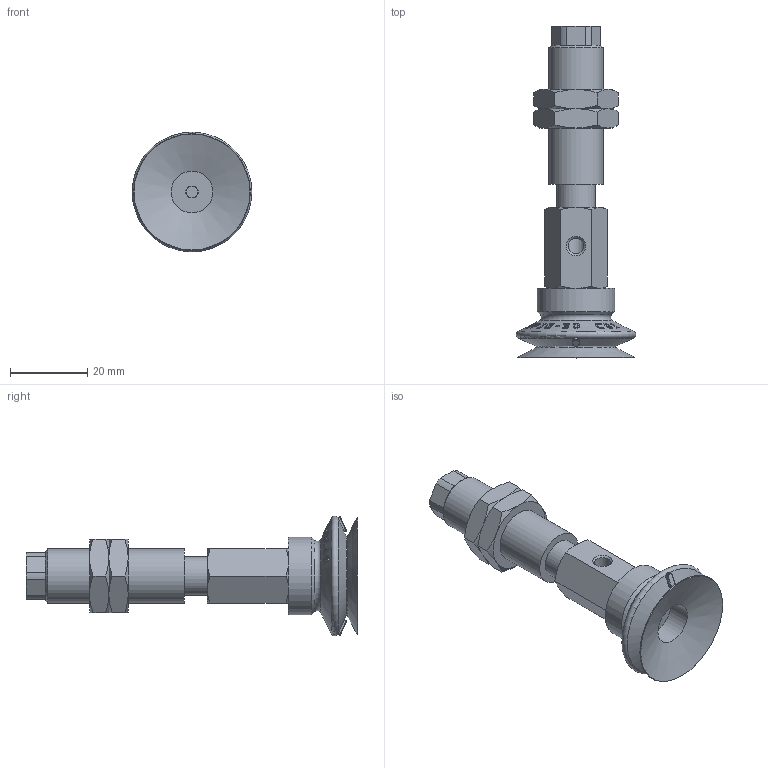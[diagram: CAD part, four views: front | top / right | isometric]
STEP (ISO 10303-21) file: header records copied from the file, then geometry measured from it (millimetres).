
FILE_DESCRIPTION(('STEP AP214'),'1');
FILE_NAME('.stp','2026-01-21T05:43:51',(' '),(' '),'Spatial InterOp 3D',' ',' ');
FILE_SCHEMA(('AUTOMOTIVE_DESIGN { 1 0 10303 214 1 1 1 1 }'));
Length unit declared in the file: millimetre
Products named in the file (7): BNABPJYS-30-6-※; BPJG-30-※; Adapter-30-NAPJ; CONNECTOR_S-30-6; NUT-NAPJ-30-6-s; NAPJYS-30-6-FBODY; NAPJYS-30-6-MBODY
Assembly tree (7 placements, depth 2):
  BNABPJYS-30-6-※
    BPJG-30-※
    Adapter-30-NAPJ
    CONNECTOR_S-30-6
    NUT-NAPJ-30-6-s  x2
    NAPJYS-30-6-FBODY
    NAPJYS-30-6-MBODY
Bounding box: 30.99 x 86 x 30.99 mm (x, y, z)
Volume: 17349 mm3; surface area: 12534 mm2
Topology: 7 solids, 7 shells, 782 faces, 2167 edges, 1422 vertices
Faces by surface type: plane 675, cone 70, cylinder 30, torus 7
Full cylindrical faces by diameter (mm): 3 x2, 4.134 x2, 4.917 x1, 5 x1, 5.8 x1, 6 x1, 10 x2, 10.8 x1, 11 x1, 13.188 x2, 14 x1, 20 x1
Entity records: 31294 total; most frequent: CARTESIAN_POINT 7788, ORIENTED_EDGE 4160, DIRECTION 2637, EDGE_CURVE 2080, VERTEX_POINT 1389, B_SPLINE_CURVE_WITH_KNOTS 1083, LINE 891, VECTOR 891
